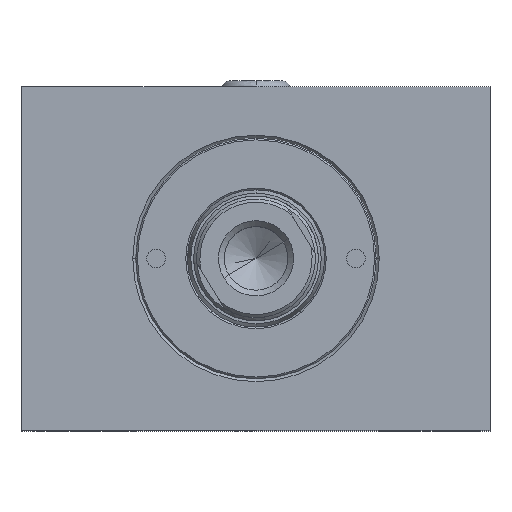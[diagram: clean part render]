
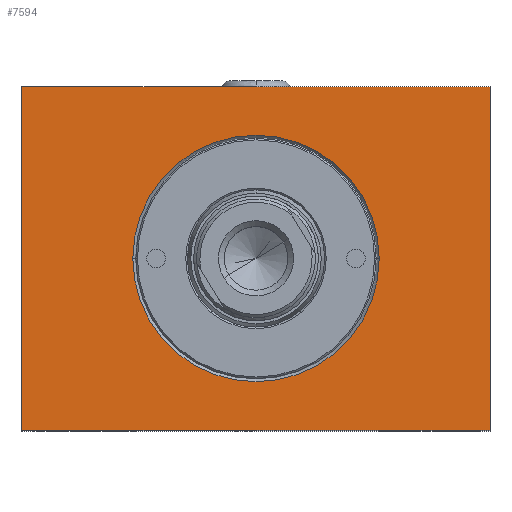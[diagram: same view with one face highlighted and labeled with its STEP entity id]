
A CAD part, top view. The second image highlights one B-rep face of the part: STEP entity #7594.
In plain terms, the highlighted planar face has unit normal (0, 0, 1).
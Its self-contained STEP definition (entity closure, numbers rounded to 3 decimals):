
#367 = DIRECTION ( 'NONE',  ( -1., 0., 0. ) ) ;
#805 = EDGE_CURVE ( 'NONE', #8502, #11260, #3999, .T. ) ;
#1041 = EDGE_CURVE ( 'NONE', #3627, #4055, #8122, .T. ) ;
#1994 = CARTESIAN_POINT ( 'NONE',  ( 57.25, 27.5, 105. ) ) ;
#2169 = CARTESIAN_POINT ( 'NONE',  ( 37.5, 27.5, 105. ) ) ;
#2434 = CARTESIAN_POINT ( 'NONE',  ( 17.75, 27.5, 105. ) ) ;
#2707 = EDGE_CURVE ( 'NONE', #11260, #12055, #6841, .T. ) ;
#2887 = DIRECTION ( 'NONE',  ( -1., 0., 0. ) ) ;
#2922 = AXIS2_PLACEMENT_3D ( 'NONE', #2169, #12289, #367 ) ;
#3062 = ORIENTED_EDGE ( 'NONE', *, *, #1041, .T. ) ;
#3318 = ORIENTED_EDGE ( 'NONE', *, *, #6411, .T. ) ;
#3537 = DIRECTION ( 'NONE',  ( -1., 0., 0. ) ) ;
#3603 = EDGE_CURVE ( 'NONE', #9421, #8502, #11394, .T. ) ;
#3627 = VERTEX_POINT ( 'NONE', #2434 ) ;
#3874 = DIRECTION ( 'NONE',  ( 0., 0., -1. ) ) ;
#3899 = ORIENTED_EDGE ( 'NONE', *, *, #805, .T. ) ;
#3999 = LINE ( 'NONE', #10888, #8604 ) ;
#4029 = FACE_OUTER_BOUND ( 'NONE', #8797, .T. ) ;
#4055 = VERTEX_POINT ( 'NONE', #1994 ) ;
#4224 = CARTESIAN_POINT ( 'NONE',  ( 75., 55., 105. ) ) ;
#4474 = VECTOR ( 'NONE', #11170, 1000. ) ;
#4528 = CARTESIAN_POINT ( 'NONE',  ( 0., 0., 105. ) ) ;
#4555 = CARTESIAN_POINT ( 'NONE',  ( 37.5, 27.5, 105. ) ) ;
#4679 = CARTESIAN_POINT ( 'NONE',  ( 75., 0., 105. ) ) ;
#4858 = DIRECTION ( 'NONE',  ( -1., 0., 0. ) ) ;
#5540 = DIRECTION ( 'NONE',  ( 1., 0., 0. ) ) ;
#5815 = CIRCLE ( 'NONE', #2922, 19.75 ) ;
#5977 = ORIENTED_EDGE ( 'NONE', *, *, #10381, .T. ) ;
#6342 = CARTESIAN_POINT ( 'NONE',  ( 0., 0., 105. ) ) ;
#6411 = EDGE_CURVE ( 'NONE', #4055, #3627, #5815, .T. ) ;
#6833 = EDGE_LOOP ( 'NONE', ( #3318, #3062 ) ) ;
#6841 = LINE ( 'NONE', #6342, #4474 ) ;
#6936 = CARTESIAN_POINT ( 'NONE',  ( 0., 0., 105. ) ) ;
#6961 = CARTESIAN_POINT ( 'NONE',  ( 0., 0., 105. ) ) ;
#7569 = DIRECTION ( 'NONE',  ( 0., 1., 0. ) ) ;
#7594 = ADVANCED_FACE ( 'NONE', ( #8629, #4029 ), #7914, .F. ) ;
#7636 = AXIS2_PLACEMENT_3D ( 'NONE', #4555, #11686, #3537 ) ;
#7653 = VECTOR ( 'NONE', #5540, 1000. ) ;
#7914 = PLANE ( 'NONE',  #11655 ) ;
#8100 = LINE ( 'NONE', #4528, #7653 ) ;
#8122 = CIRCLE ( 'NONE', #7636, 19.75 ) ;
#8502 = VERTEX_POINT ( 'NONE', #4224 ) ;
#8604 = VECTOR ( 'NONE', #2887, 1000. ) ;
#8629 = FACE_BOUND ( 'NONE', #6833, .T. ) ;
#8722 = ORIENTED_EDGE ( 'NONE', *, *, #2707, .T. ) ;
#8797 = EDGE_LOOP ( 'NONE', ( #8722, #5977, #9221, #3899 ) ) ;
#9221 = ORIENTED_EDGE ( 'NONE', *, *, #3603, .T. ) ;
#9421 = VERTEX_POINT ( 'NONE', #9746 ) ;
#9746 = CARTESIAN_POINT ( 'NONE',  ( 75., 0., 105. ) ) ;
#9782 = VECTOR ( 'NONE', #7569, 1000. ) ;
#10055 = CARTESIAN_POINT ( 'NONE',  ( 0., 55., 105. ) ) ;
#10381 = EDGE_CURVE ( 'NONE', #12055, #9421, #8100, .T. ) ;
#10888 = CARTESIAN_POINT ( 'NONE',  ( 0., 55., 105. ) ) ;
#11170 = DIRECTION ( 'NONE',  ( 0., -1., 0. ) ) ;
#11260 = VERTEX_POINT ( 'NONE', #10055 ) ;
#11394 = LINE ( 'NONE', #4679, #9782 ) ;
#11655 = AXIS2_PLACEMENT_3D ( 'NONE', #6936, #3874, #4858 ) ;
#11686 = DIRECTION ( 'NONE',  ( 0., 0., -1. ) ) ;
#12055 = VERTEX_POINT ( 'NONE', #6961 ) ;
#12289 = DIRECTION ( 'NONE',  ( 0., 0., -1. ) ) ;
